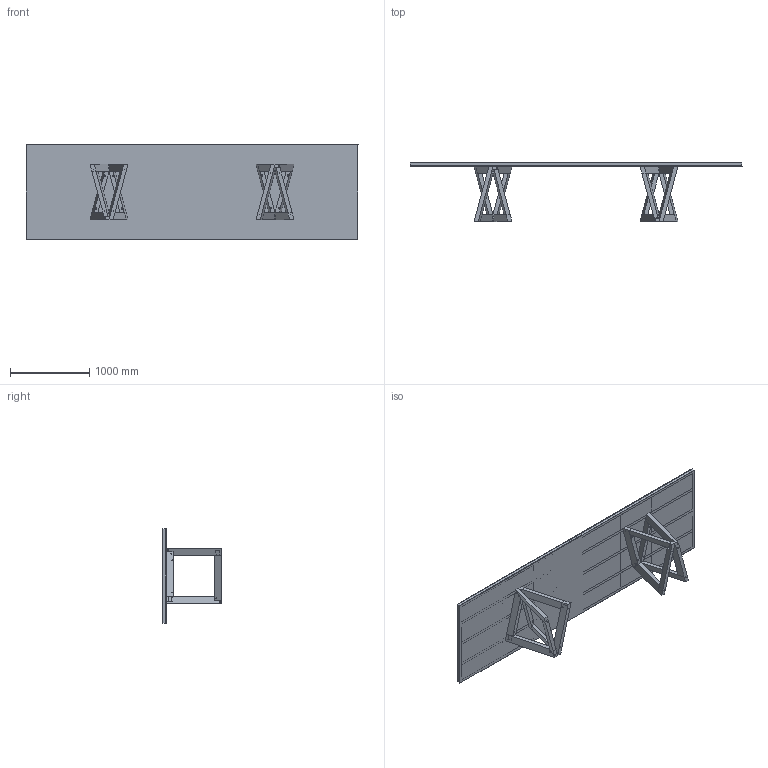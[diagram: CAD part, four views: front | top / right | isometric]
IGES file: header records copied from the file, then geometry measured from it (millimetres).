
Start section: SolidWorks IGES file using analytic representation for surfaces
Global section: file name: C:\Users\Matteo\Desktop\_Horm\Dror\_file tecnici per listino\QuaDror 03\QuaDror 03.IGS; native system: SolidWorks 2010; preprocessor: SolidWorks 2010; author: Matteo; date: 151116.101428; units: millimetre
Bounding box: 4200 x 746.42 x 1200 mm (x, y, z)
Surface area: 39565090.2 mm2 (no closed solid volume)
Topology: 0 solids, 0 shells, 504 faces, 8576 edges, 8576 vertices
Faces by surface type: bspline 364, revolution 140
